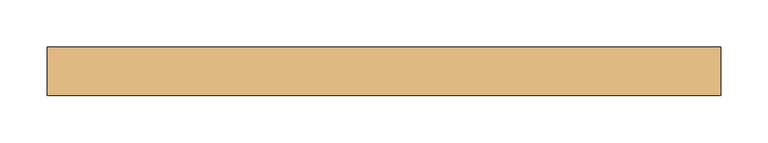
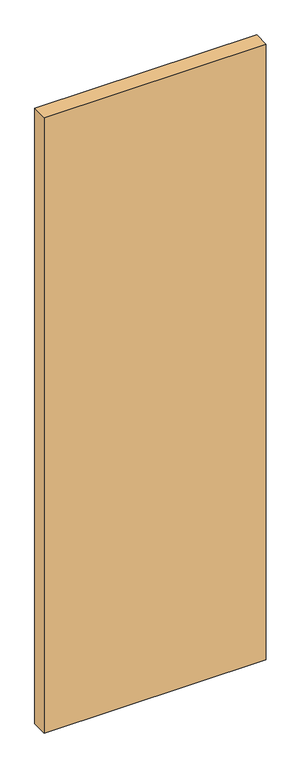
"""IFC4 building model written with IfcOpenShell, lengths in millimetres: door geometry."""

from ifc_helpers import new_model, si_unit, origin, origin_with_axes, place, context, project, spatial, polyline, outline, extrude, source, transform, mapped, element, save


def door_c55a3a29(model_context):
    return source(origin(), model_context, "Body", "SweptSolid", [
        extrude(outline(polyline([(355.6, 31.5515625), (-355.6, 31.5515625), (-355.6, 82.55), (355.6, 82.55), (355.6, 31.5515625)])), origin_with_axes(), (0.0, 0.0, 1.0), 2082.8),
    ])


if __name__ == "__main__":
    model = new_model("IFC4")
    model_context = context("Model", 3, world=origin())
    ifc_project = project(units=[si_unit("LENGTHUNIT", "METRE", prefix="MILLI")], contexts=[model_context])
    site = spatial("IfcSite", under=ifc_project)
    building = spatial("IfcBuilding", under=site)
    placement = place(None, origin())
    door_shape = door_c55a3a29(model_context)
    element("IfcDoor", 1, ObjectType="Planitar - Single Door_Flush Panel : 2'-4\" x 6'-8\" @45", at=placement, inside=building, context=model_context, shape_type="MappedRepresentation", body=[
        mapped(door_shape, transform((0.0, 0.0, 0.0), x_axis=(1.0, 0.0, 0.0), y_axis=(0.0, 1.0, 0.0), z_axis=(0.0, 0.0, 1.0))),
    ])
    save(model, "model.ifc")
